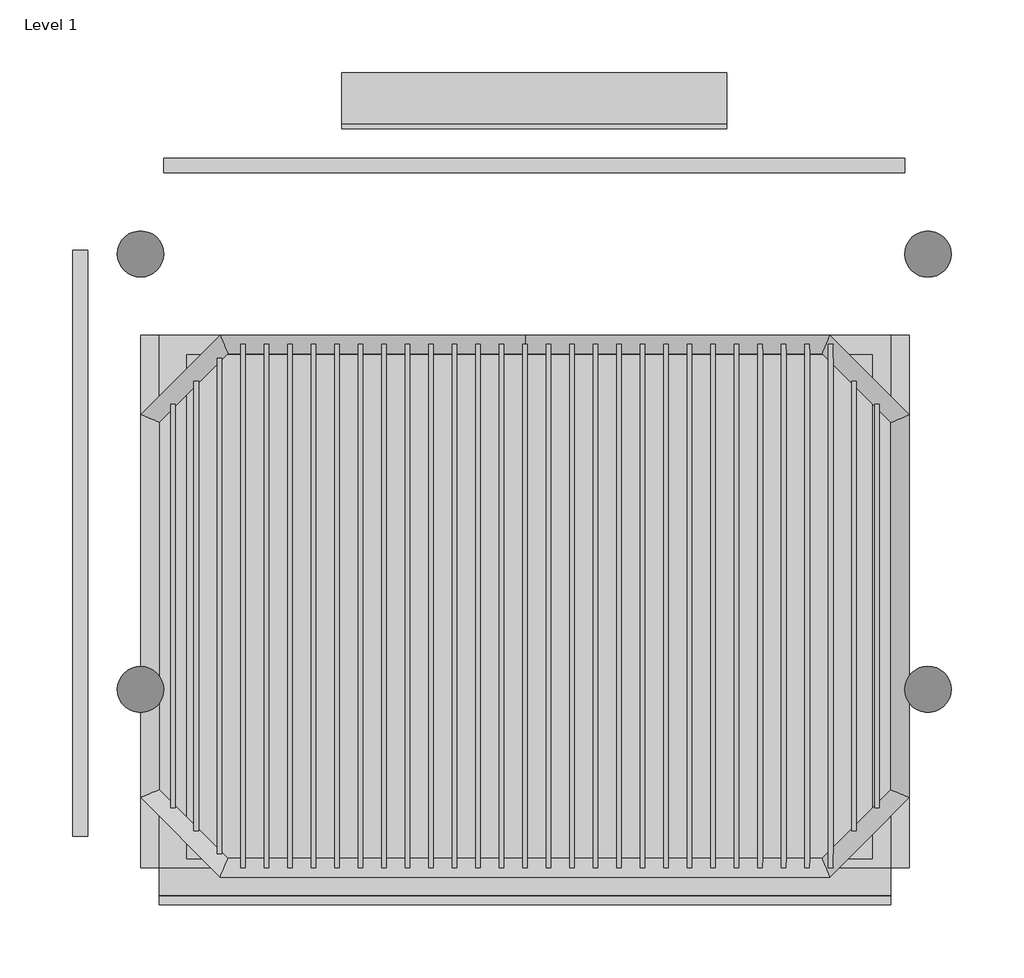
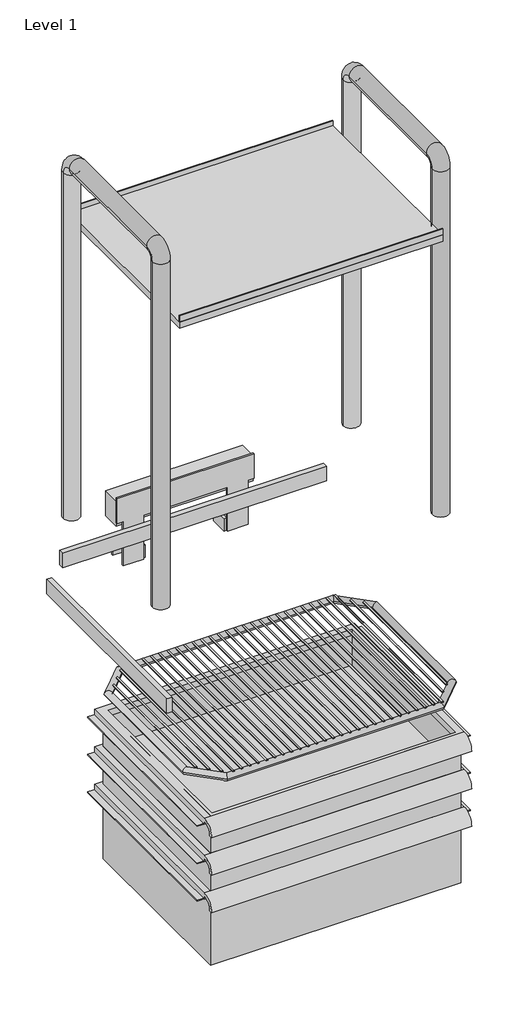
# One storey, incomplete: 8 furniture elements.
"""IFC4 building model written with IfcOpenShell, lengths in millimetres."""

from ifc_helpers import new_model, si_unit, origin, place, context, project, spatial, transform, mapped, element, save
from components import furniture_a84accc4, furniture_907d2fab, furniture_90ba0c3f, furniture_fa17816b, furniture_28e7d052, furniture_63bd0a72, furniture_27459807, sr_22_wire_shelf_b2b4e824

model = new_model("IFC4")

# Units and contexts
model_context = context("Model", 3, world=origin())
ifc_project = project(units=[si_unit("LENGTHUNIT", "METRE", prefix="MILLI")], contexts=[model_context])

# Site, building, storey
site = spatial("IfcSite", under=ifc_project)
building = spatial("IfcBuilding", under=site)
storey = spatial("IfcBuildingStorey", under=building, Name="Level 1", Elevation=0.0)

# Furniture
placement = place(None, origin())
furniture_shape = furniture_a84accc4(model_context)
element("IfcFurniture", 1, ObjectType="HermanMiller_Carts_CT778_ElectricalStrip4Outlet : 5H x 3D x 11W", at=placement, inside=storey, context=model_context, shape_type="MappedRepresentation", body=[
    mapped(furniture_shape, transform((447.1548548, 27.3067844, 0.0), x_axis=(1.0, 0.0, 0.0), y_axis=(0.0, 1.0, 0.0), z_axis=(0.0, 0.0, 1.0))),
])
furniture_2_shape = furniture_907d2fab(model_context)
element("IfcFurniture", 2, ObjectType="HermanMiller_Carts_CT788_Above-CartShelf : Abv Cart Shlf 20 Wide", at=placement, inside=storey, context=model_context, shape_type="MappedRepresentation", body=[
    mapped(furniture_2_shape, transform((387.7205379, -246.1400906, 0.0), x_axis=(1.0, 0.0, 0.0), y_axis=(0.0, 1.0, 0.0), z_axis=(0.0, 0.0, 1.0))),
])
furniture_3_shape = furniture_90ba0c3f(model_context)
element("IfcFurniture", 3, ObjectType="HermanMiller_Carts_CT501_Drawer : 3\"H x 15\"D x 20\"W", at=placement, inside=storey, context=model_context, shape_type="MappedRepresentation", body=[
    mapped(furniture_3_shape, transform((352.6403863, -347.6607156, 0.0), x_axis=(1.0, 0.0, 0.0), y_axis=(0.0, 1.0, 0.0), z_axis=(0.0, 0.0, 1.0))),
])
furniture_4_shape = furniture_fa17816b(model_context)
element("IfcFurniture", 4, ObjectType="HermanMiller_Carts_CT501_Drawer : 3\"H x 15\"D x 20\"W", at=placement, inside=storey, context=model_context, shape_type="MappedRepresentation", body=[
    mapped(furniture_4_shape, transform((352.6403863, -347.6607156, 0.0), x_axis=(1.0, 0.0, 0.0), y_axis=(0.0, 1.0, 0.0), z_axis=(0.0, 0.0, 1.0))),
])
furniture_5_shape = furniture_28e7d052(model_context)
element("IfcFurniture", 5, ObjectType="HermanMiller_Carts_CT501_Drawer : 6\"H x 15\"D x 20\"W", at=placement, inside=storey, context=model_context, shape_type="MappedRepresentation", body=[
    mapped(furniture_5_shape, transform((352.6403863, -347.6607156, 0.0), x_axis=(1.0, 0.0, 0.0), y_axis=(0.0, 1.0, 0.0), z_axis=(0.0, 0.0, 1.0))),
])
furniture_6_shape = furniture_63bd0a72(model_context)
element("IfcFurniture", 6, ObjectType="HermanMiller_Carts_CT782_AccessoryRailSide : 15\"W Left Sect 4", at=placement, inside=storey, context=model_context, shape_type="MappedRepresentation", body=[
    mapped(furniture_6_shape, transform((60.7336379, -295.1462156, 0.0), x_axis=(1.0, 0.0, 0.0), y_axis=(0.0, 1.0, 0.0), z_axis=(0.0, 0.0, 1.0))),
])
furniture_7_shape = furniture_27459807(model_context)
element("IfcFurniture", 7, ObjectType="HermanMiller_Carts_CT782_AccessoryRailSide : 20\"W", at=placement, inside=storey, context=model_context, shape_type="MappedRepresentation", body=[
    mapped(furniture_7_shape, transform((371.8256941, -36.1551156, 0.0), x_axis=(1.0, 0.0, 0.0), y_axis=(0.0, 1.0, 0.0), z_axis=(0.0, 0.0, 1.0))),
])
sr_22_wire_shelf_shape = sr_22_wire_shelf_b2b4e824(model_context)
element("IfcFurniture", 8, ObjectType="HermanMiller_Carts_CT521_CartShelf : Sr 22 Wire Shelf", at=placement, inside=storey, context=model_context, shape_type="MappedRepresentation", body=[
    mapped(sr_22_wire_shelf_shape, transform((422.6455379, -311.1482156, 0.0), x_axis=(1.0, 0.0, 0.0), y_axis=(0.0, 1.0, 0.0), z_axis=(0.0, 0.0, 1.0))),
])

save(model, "model.ifc")
